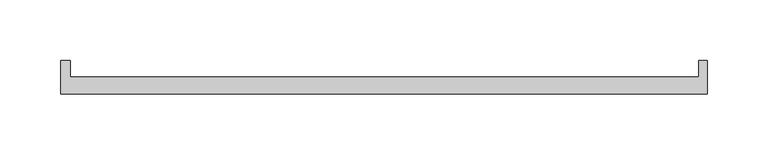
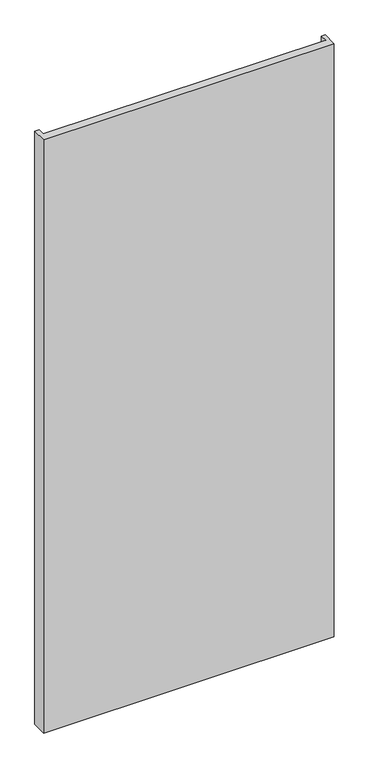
"""IFC4 building model written with IfcOpenShell, lengths in millimetres: plate geometry, Walls_Curtain-Walls_Danpal_AIRPT : Walls_Curtain-Walls_Danpal_AIRPT."""

from ifc_helpers import new_model, si_unit, origin, origin_with_axes, place, context, project, spatial, polyline, outline, extrude, source, transform, mapped, element, save


def plate_09bead92(model_context):
    return source(origin(), model_context, "Body", "SweptSolid", [
        extrude(outline(polyline([(-257.3806431, 14.1228126), (258.0762525, 14.1228126), (258.0762525, 27.3924397), (265.0762525, 27.3924397), (265.0762525, 0.0), (-265.1, 0.0), (-265.1, 27.3924397), (-257.3806431, 27.3924397), (-257.3806431, 14.1228126)])), origin_with_axes(), (0.0, 0.0, 1.0), 1143.8319078),
    ])


if __name__ == "__main__":
    model = new_model("IFC4")
    model_context = context("Model", 3, world=origin())
    ifc_project = project(units=[si_unit("LENGTHUNIT", "METRE", prefix="MILLI")], contexts=[model_context])
    site = spatial("IfcSite", under=ifc_project)
    building = spatial("IfcBuilding", under=site)
    placement = place(None, origin())
    plate_shape = plate_09bead92(model_context)
    element("IfcPlate", 1, ObjectType="Walls_Curtain-Walls_Danpal_AIRPT : Walls_Curtain-Walls_Danpal_AIRPT", at=placement, inside=building, context=model_context, shape_type="MappedRepresentation", body=[
        mapped(plate_shape, transform((0.0, 0.0, 0.0), x_axis=(1.0, 0.0, 0.0), y_axis=(0.0, 1.0, 0.0), z_axis=(0.0, 0.0, 1.0))),
    ])
    save(model, "model.ifc")
